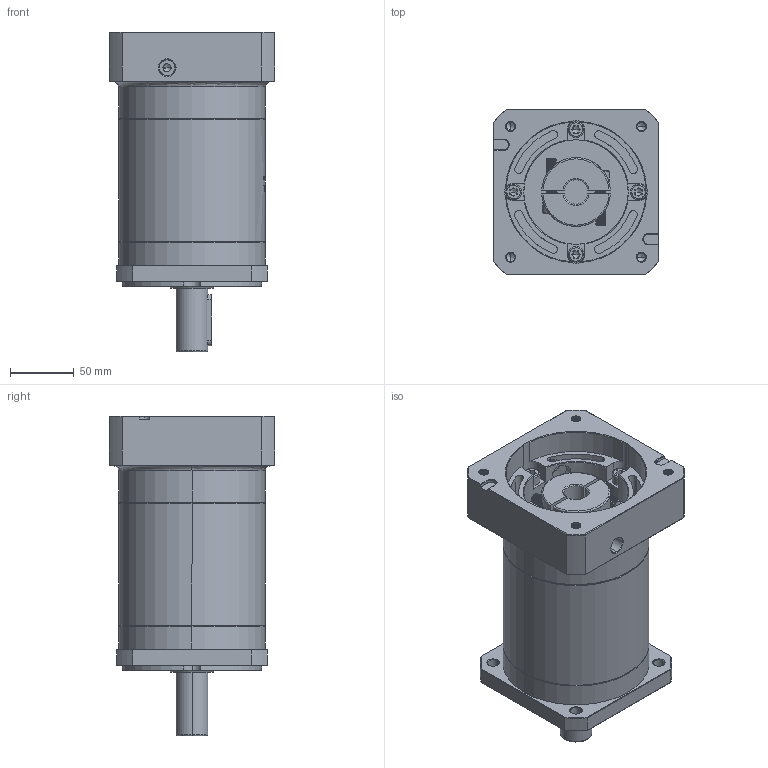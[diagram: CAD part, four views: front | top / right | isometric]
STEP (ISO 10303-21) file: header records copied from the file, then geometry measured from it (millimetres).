
FILE_DESCRIPTION (( 'STEP AP214' ), '1' );
FILE_NAME ('ZF120A-D25-L3-19-110-145-M8.step', '2023-03-07T09:30:32', ( '' ), ( '' ), 'SwSTEP 2.0', 'SolidWorks 2016', '' );
FILE_SCHEMA (( 'AUTOMOTIVE_DESIGN' ));
Length unit declared in the file: millimetre
Products named in the file (1): ZF120A-D25-L3-19-110-145-M8
Bounding box: 130 x 130 x 251 mm (x, y, z)
Volume: 2048642.7 mm3; surface area: 202462.5 mm2
Topology: 6 solids, 6 shells, 2001 faces, 5276 edges, 3367 vertices
Faces by surface type: plane 883, cylinder 449, cone 327, bspline 323, torus 19
Entity records: 110308 total; most frequent: CARTESIAN_POINT 42638, ORIENTED_EDGE 10492, DIRECTION 8167, EDGE_CURVE 5246, VERTEX_POINT 3367, LINE 2823, VECTOR 2823, AXIS2_PLACEMENT_3D 2672
